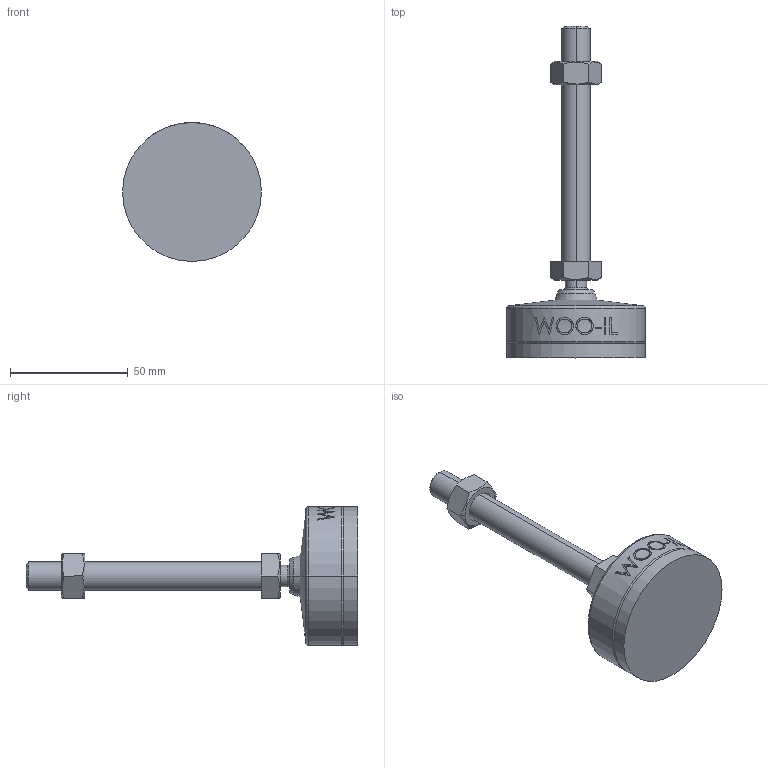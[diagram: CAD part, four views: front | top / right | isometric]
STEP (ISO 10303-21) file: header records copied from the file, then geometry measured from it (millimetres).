
FILE_DESCRIPTION (( 'STEP AP214' ), '1' );
FILE_NAME ('MFNR59-M12-100.step', '2021-02-22T09:05:55', ( '' ), ( '' ), 'SwSTEP 2.0', 'SolidWorks 2019', '' );
FILE_SCHEMA (( 'AUTOMOTIVE_DESIGN' ));
Length unit declared in the file: millimetre
Products named in the file (2): MFNR59-M12-100
Bounding box: 59 x 141 x 59 mm (x, y, z)
Volume: 80174.5 mm3; surface area: 16175.9 mm2
Topology: 2 solids, 2 shells, 105 faces, 245 edges, 156 vertices
Faces by surface type: plane 47, cone 18, cylinder 18, bspline 16, torus 4, sphere 2
Entity records: 4515 total; most frequent: CARTESIAN_POINT 2178, ORIENTED_EDGE 490, DIRECTION 437, EDGE_CURVE 245, AXIS2_PLACEMENT_3D 167, VERTEX_POINT 156, EDGE_LOOP 119, FACE_OUTER_BOUND 105
